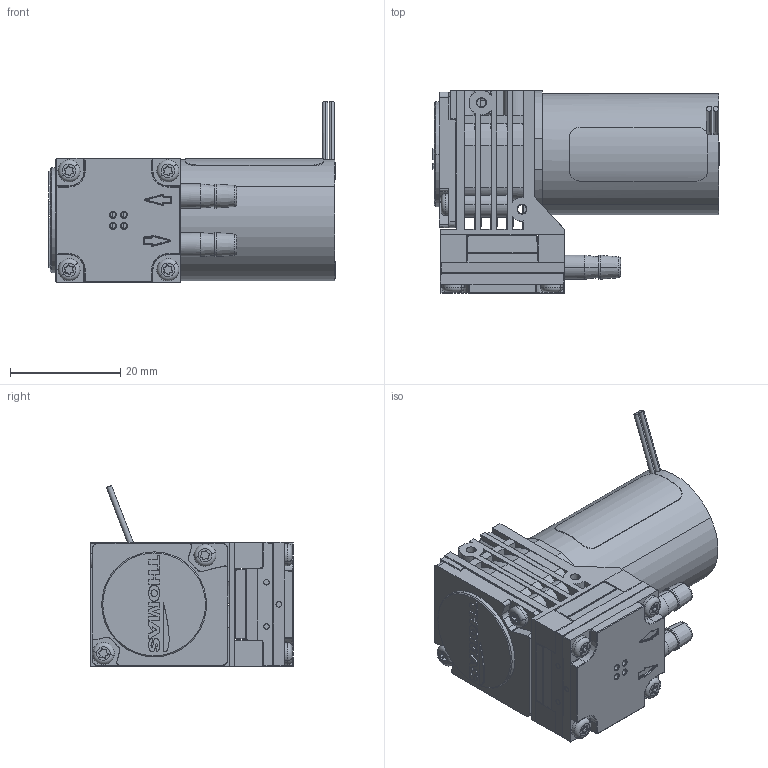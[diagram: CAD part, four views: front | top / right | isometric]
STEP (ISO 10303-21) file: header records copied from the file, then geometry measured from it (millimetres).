
FILE_DESCRIPTION (( 'STEP AP214' ), '1' );
FILE_NAME ('1210 DC HP Hose Barbs.STEP', '2022-01-24T14:05:13', ( '' ), ( '' ), 'SwSTEP 2.0', 'SolidWorks 2020', '' );
FILE_SCHEMA (( 'AUTOMOTIVE_DESIGN' ));
Length unit declared in the file: millimetre
Products named in the file (1): 1210 DC HP Hose Barbs
Bounding box: 51.85 x 36.71 x 32.77 mm (x, y, z)
Surface area: 9202.9 mm2 (no closed solid volume)
Topology: 0 solids, 23 shells, 1041 faces, 4007 edges, 2845 vertices
Faces by surface type: plane 575, cylinder 326, cone 70, torus 32, bspline 31, sphere 7
Entity records: 54087 total; most frequent: CARTESIAN_POINT 10252, DIRECTION 6444, ORIENTED_EDGE 6433, EDGE_CURVE 4000, VERTEX_POINT 2845, VECTOR 2746, LINE 2746, AXIS2_PLACEMENT_3D 1849
